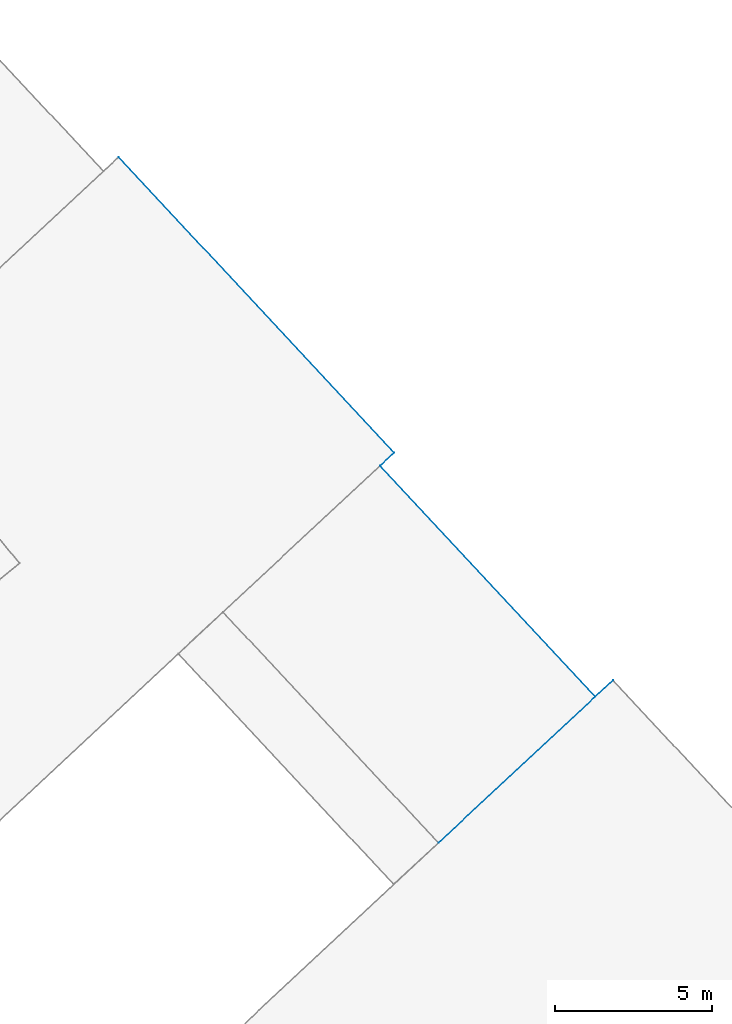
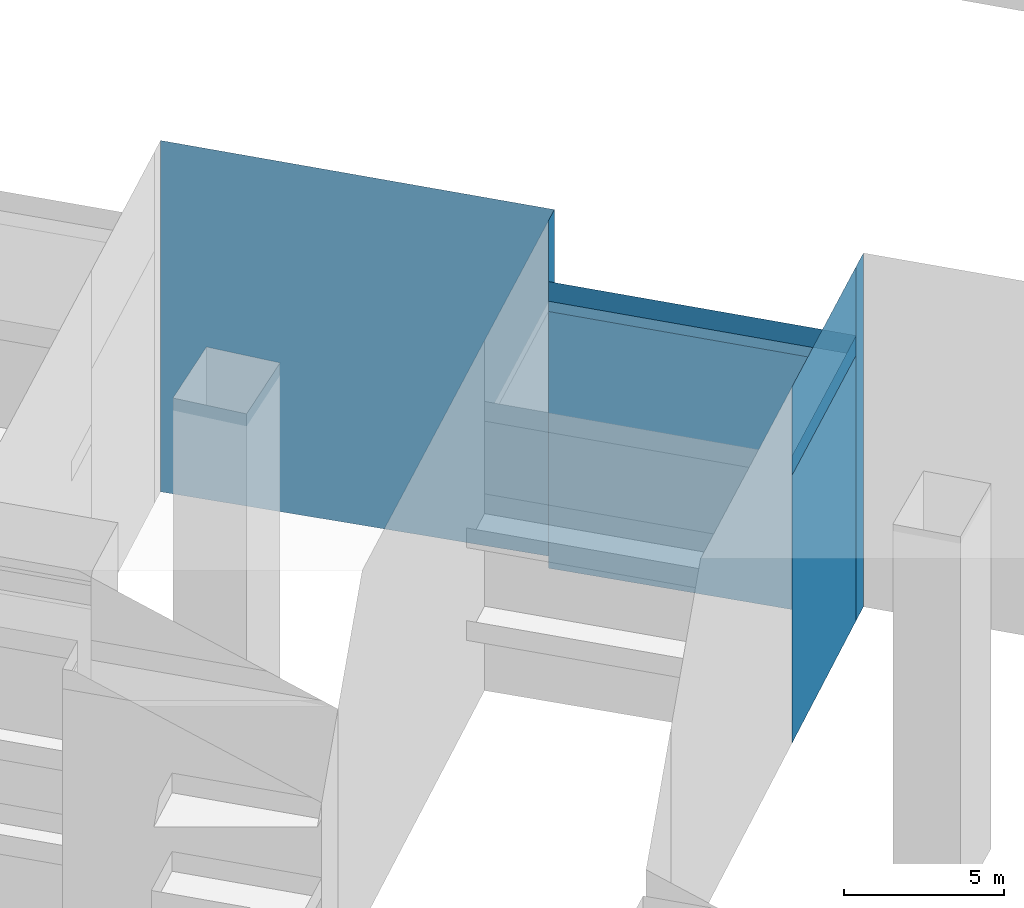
# Not in any storey, part 20 of 136: 11 walls.
"""IFC2X3 building model written with IfcOpenShell, lengths in metres."""

from ifc_helpers import new_model, entity, si_unit, converted_unit, origin, place, context, subcontext, project, spatial, face_set, surface_model, element, save


model = new_model("IFC2X3")

# Units and contexts
model_context = context("Model", 3, precision=1e-05, world=origin())
body_context = subcontext(model_context, "Body", "Model", "MODEL_VIEW")
ifc_project = project(units=[converted_unit("PLANEANGLEUNIT", "DEGREE", entity("IfcRatioMeasure", 0.0174532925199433), si_unit("PLANEANGLEUNIT", "RADIAN"), dimensions=[0, 0, 0, 0, 0, 0, 0]), si_unit("AREAUNIT", "SQUARE_METRE"), si_unit("LENGTHUNIT", "METRE")], contexts=[model_context])

# Site, building
site_placement = place(None, origin())
site = spatial("IfcSite", under=ifc_project, at=site_placement, Name="_site", CompositionType="ELEMENT")
building_1_placement = place(site_placement, origin())
building_1 = spatial("IfcBuilding", under=site, at=building_1_placement, Name="_building", CompositionType="ELEMENT")

# Walls
wall_1_placement = place(building_1_placement, origin())
element("IfcWall", 1, at=wall_1_placement, inside=building_1, Name="Wall", context=body_context, shape_type="SurfaceModel", body=[
    surface_model("IfcFaceBasedSurfaceModel", [(156.61, -19.939, 48.51), (151.62, -24.59, 48.51), (151.62, -24.59, 38.308), (156.61, -19.939, 38.4)], [face_set([[[0, 1, 2, 3]]])]),
])
wall_2_placement = place(building_1_placement, origin())
element("IfcWall", 2, at=wall_2_placement, inside=building_1, Name="Wall", context=body_context, shape_type="SurfaceModel", body=[
    surface_model("IfcFaceBasedSurfaceModel", [(149.76, -12.6, 48.51), (156.61, -19.939, 48.51), (156.61, -19.939, 38.4), (149.76, -12.6, 38.34)], [face_set([[[0, 1, 2, 3]]])]),
])
wall_3_placement = place(building_1_placement, origin())
element("IfcWall", 3, at=wall_3_placement, inside=building_1, Name="Wall", context=body_context, shape_type="SurfaceModel", body=[
    surface_model("IfcFaceBasedSurfaceModel", [(149.76, -12.6, 48.51), (156.61, -19.939, 48.51), (156.61, -19.939, 49.26), (149.76, -12.6, 49.26)], [face_set([[[0, 1, 2, 3]]])]),
])
wall_4_placement = place(building_1_placement, origin())
element("IfcWall", 4, at=wall_4_placement, inside=building_1, Name="Wall", context=body_context, shape_type="SurfaceModel", body=[
    surface_model("IfcFaceBasedSurfaceModel", [(156.61, -19.939, 48.51), (151.62, -24.59, 48.51), (151.62, -24.59, 49.26), (156.61, -19.939, 49.26)], [face_set([[[0, 1, 2, 3]]])]),
])
wall_5_placement = place(building_1_placement, origin())
element("IfcWall", 5, at=wall_5_placement, inside=building_1, Name="Wall", context=body_context, shape_type="SurfaceModel", body=[
    surface_model("IfcFaceBasedSurfaceModel", [(149.76, -12.6, 48.51), (156.61, -19.939, 48.51), (156.61, -19.939, 49.26), (149.76, -12.6, 49.26)], [face_set([[[0, 1, 2, 3]]])]),
])
wall_6_placement = place(building_1_placement, origin())
element("IfcWall", 6, at=wall_6_placement, inside=building_1, Name="Wall", context=body_context, shape_type="SurfaceModel", body=[
    surface_model("IfcFaceBasedSurfaceModel", [(149.76, -12.6, 48.12), (156.61, -19.939, 48.12), (156.61, -19.939, 38.4), (149.76, -12.6, 38.34)], [face_set([[[0, 1, 2, 3]]])]),
])
wall_7_placement = place(building_1_placement, origin())
element("IfcWall", 7, at=wall_7_placement, inside=building_1, Name="Wall", context=body_context, shape_type="SurfaceModel", body=[
    surface_model("IfcFaceBasedSurfaceModel", [(150.21, -12.18, 51.59), (149.76, -12.6, 51.59), (149.76, -12.6, 38.34), (150.21, -12.18, 38.35)], [face_set([[[0, 1, 2, 3]]])]),
])
wall_8_placement = place(building_1_placement, origin())
element("IfcWall", 8, at=wall_8_placement, inside=building_1, Name="Wall", context=body_context, shape_type="SurfaceModel", body=[
    surface_model("IfcFaceBasedSurfaceModel", [(141.45, -2.78, 51.59), (150.21, -12.18, 51.59), (150.21, -12.18, 38.35), (141.45, -2.78, 38.203)], [face_set([[[0, 1, 2, 3]]])]),
])
wall_9_placement = place(building_1_placement, origin())
element("IfcWall", 9, at=wall_9_placement, inside=building_1, Name="Wall", context=body_context, shape_type="SurfaceModel", body=[
    surface_model("IfcFaceBasedSurfaceModel", [(156.61, -19.939, 51.89), (157.17, -19.42, 51.89), (157.17, -19.42, 38.41), (156.61, -19.939, 38.4)], [face_set([[[0, 1, 2, 3]]])]),
])
wall_10_placement = place(building_1_placement, origin())
element("IfcWall", 10, at=wall_10_placement, inside=building_1, Name="Wall", context=body_context, shape_type="SurfaceModel", body=[
    surface_model("IfcFaceBasedSurfaceModel", [(151.62, -24.59, 51.89), (156.61, -19.939, 51.89), (156.61, -19.939, 48.12), (151.62, -24.59, 48.12)], [face_set([[[0, 1, 2, 3]]])]),
])

# Building
building_2_placement = place(site_placement, origin())
building_2 = spatial("IfcBuilding", under=site, at=building_2_placement, Name="_building", CompositionType="ELEMENT")

# Wall
wall_11_placement = place(building_2_placement, origin())
element("IfcWall", 11, at=wall_11_placement, inside=building_2, Name="Wall", context=body_context, shape_type="SurfaceModel", body=[
    surface_model("IfcFaceBasedSurfaceModel", [(156.61, -19.939, 48.51), (151.62, -24.59, 48.51), (151.62, -24.59, 49.26), (156.61, -19.939, 49.26)], [face_set([[[0, 1, 2, 3]]])]),
])

save(model, "model.ifc")
